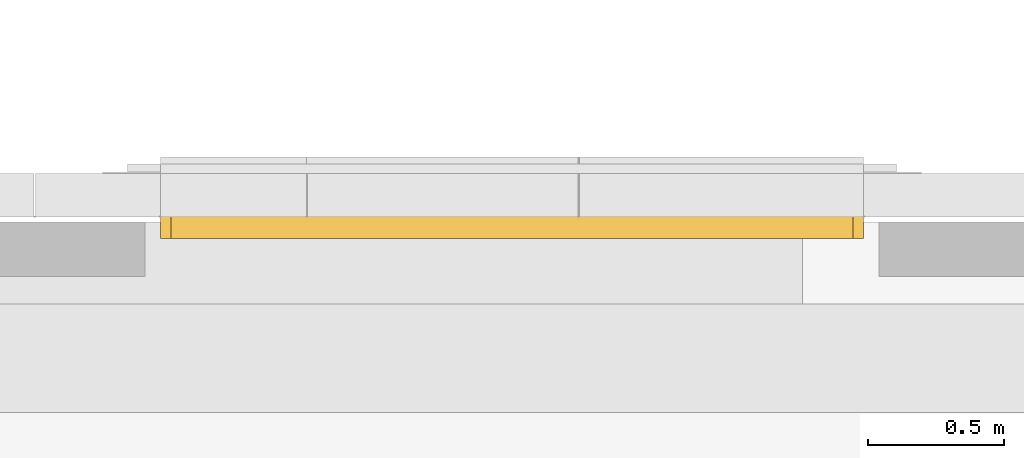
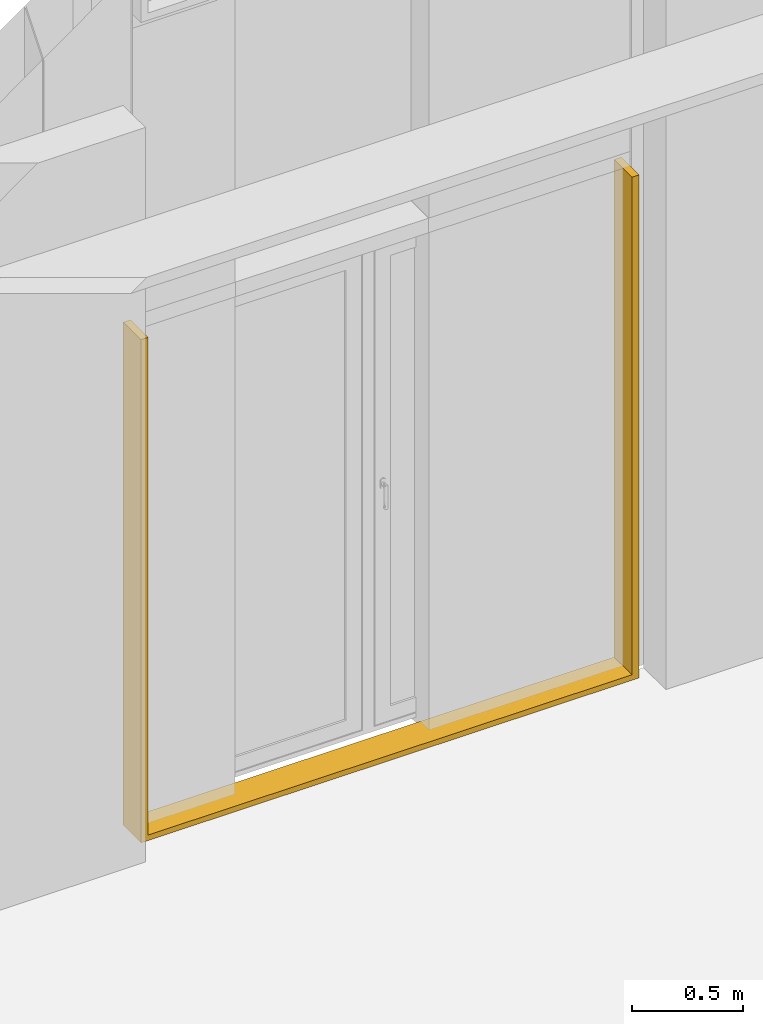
# One storey, part 236 of 302: 1 curtain wall, 1 opening, 1 element without a shape of its own.
"""IFC2X3 building model written with IfcOpenShell, lengths in metres."""

from ifc_helpers import new_model, entity, si_unit, converted_unit, derived_unit, direction, frame, frame_2d, origin, place, context, subcontext, project, spatial, rectangle, extrude, faceted_brep, material, layer, layer_set, layer_usage, type_object, element, aggregate, save


model = new_model("IFC2X3")

# Units and contexts
model_context = context("Model", 3, precision=1e-05, world=origin(), true_north=direction((6.12303176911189e-17, 1.0)))
body_context = subcontext(model_context, "Body", "Model", "MODEL_VIEW")
ifc_project = project(units=[si_unit("LENGTHUNIT", "METRE"), si_unit("AREAUNIT", "SQUARE_METRE"), si_unit("VOLUMEUNIT", "CUBIC_METRE"), converted_unit("PLANEANGLEUNIT", "DEGREE", entity("IfcRatioMeasure", 0.0174532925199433), si_unit("PLANEANGLEUNIT", "RADIAN"), dimensions=[0, 0, 0, 0, 0, 0, 0]), si_unit("MASSUNIT", "GRAM", prefix="KILO"), derived_unit("MASSDENSITYUNIT", [(si_unit("MASSUNIT", "GRAM", prefix="KILO"), 1), (si_unit("LENGTHUNIT", "METRE"), -3)]), derived_unit("MOMENTOFINERTIAUNIT", [(si_unit("LENGTHUNIT", "METRE"), 4)]), si_unit("TIMEUNIT", "SECOND"), si_unit("FREQUENCYUNIT", "HERTZ"), si_unit("THERMODYNAMICTEMPERATUREUNIT", "DEGREE_CELSIUS"), derived_unit("THERMALTRANSMITTANCEUNIT", [(si_unit("MASSUNIT", "GRAM", prefix="KILO"), 1), (si_unit("THERMODYNAMICTEMPERATUREUNIT", "KELVIN"), -1), (si_unit("TIMEUNIT", "SECOND"), -3)]), derived_unit("VOLUMETRICFLOWRATEUNIT", [(si_unit("LENGTHUNIT", "METRE"), 3), (si_unit("TIMEUNIT", "SECOND"), -1)]), si_unit("ELECTRICCURRENTUNIT", "AMPERE"), si_unit("ELECTRICVOLTAGEUNIT", "VOLT"), si_unit("POWERUNIT", "WATT"), si_unit("FORCEUNIT", "NEWTON", prefix="KILO"), si_unit("ILLUMINANCEUNIT", "LUX"), si_unit("LUMINOUSFLUXUNIT", "LUMEN"), si_unit("LUMINOUSINTENSITYUNIT", "CANDELA"), derived_unit("USERDEFINED", [(si_unit("MASSUNIT", "GRAM", prefix="KILO"), -1), (si_unit("LENGTHUNIT", "METRE"), -2), (si_unit("TIMEUNIT", "SECOND"), 3), (si_unit("LUMINOUSFLUXUNIT", "LUMEN"), 1)]), derived_unit("LINEARVELOCITYUNIT", [(si_unit("LENGTHUNIT", "METRE"), 1), (si_unit("TIMEUNIT", "SECOND"), -1)]), si_unit("PRESSUREUNIT", "PASCAL"), derived_unit("USERDEFINED", [(si_unit("LENGTHUNIT", "METRE"), -2), (si_unit("MASSUNIT", "GRAM", prefix="KILO"), 1), (si_unit("TIMEUNIT", "SECOND"), -2)]), derived_unit("LINEARFORCEUNIT", [(si_unit("MASSUNIT", "GRAM", prefix="KILO"), 1), (si_unit("LENGTHUNIT", "METRE"), 1), (si_unit("TIMEUNIT", "SECOND"), -2), (si_unit("LENGTHUNIT", "METRE"), -1)]), derived_unit("PLANARFORCEUNIT", [(si_unit("MASSUNIT", "GRAM", prefix="KILO"), 1), (si_unit("LENGTHUNIT", "METRE"), 1), (si_unit("TIMEUNIT", "SECOND"), -2), (si_unit("LENGTHUNIT", "METRE"), -2)])], contexts=[model_context])

# Site, building, storey
site_placement = place(None, origin())
site = spatial("IfcSite", under=ifc_project, at=site_placement, Name="Default", CompositionType="ELEMENT")
building_placement = place(site_placement, origin())
building = spatial("IfcBuilding", under=site, at=building_placement, CompositionType="ELEMENT")
storey_placement = place(building_placement, frame((0.0, 0.0, -1.3)))
storey = spatial("IfcBuildingStorey", under=building, at=storey_placement, Name="00_EG", CompositionType="ELEMENT", Elevation=-1.3)

# Curtain walls, opening
curtain_wall_type_1 = type_object("IfcCurtainWallType", Name="Fassade:Curtain Wall 1", PredefinedType="NOTDEFINED")
curtain_wall_1_placement = place(storey_placement, frame((0.0, 0.0, 1.3)))
curtain_wall_1 = element("IfcCurtainWall", 1, at=curtain_wall_1_placement, inside=storey, type_object=curtain_wall_type_1, Name="Fassade:Curtain Wall 1", ObjectType="Fassade:Curtain Wall 1")
ifc_material_1 = material(Name="Prepainted_Steel-ArcelorMittal_Construction_HAIRULTRA-35-CORAL-4309-[RAL_3000]")
ifc_layer_1 = layer(ifc_material_1, 0.015)
ifc_material_2 = material(Name="ArcelorMittal-MineralWool")
ifc_layer_2 = layer(ifc_material_2, 0.13)
ifc_material_3 = material(Name="Prepainted_Steel-ArcelorMittal_Construction_INTÉRIEUR-12-WHITE-912")
ifc_layer_3 = layer(ifc_material_3, 0.015)
ifc_layer_set = layer_set([ifc_layer_1, ifc_layer_2, ifc_layer_3], Name="Fassade:Sandwichpaneele 16cm")
ifc_layer_usage = layer_usage(ifc_layer_set, "AXIS2", "POSITIVE", -0.08)
curtain_wall_type_2 = type_object("IfcCurtainWallType", Name="Basiswand:Sandwichpaneele d = 16cm aussen", PredefinedType="NOTDEFINED", material=ifc_layer_set)
curtain_wall_2_placement = place(storey_placement, frame((-210.562611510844, 45.578088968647, 1.27), z_axis=(0.0, 0.0, 1.0), x_axis=(-1.0, 0.0, 0.0)))
curtain_wall_2 = element("IfcCurtainWall", 2, at=curtain_wall_2_placement, type_object=curtain_wall_type_2, material=ifc_layer_usage, Name="Basiswand:Sandwichpaneele d = 16cm aussen", ObjectType="Basiswand:Sandwichpaneele d = 16cm aussen", context=body_context, shape_type="SweptSolid", body=[
    extrude(rectangle(XDim=2.58500000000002, YDim=0.159999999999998, at=frame_2d((1.29250000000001, 0.0), x_axis=(-1.0, 0.0))), origin(), (0.0, 0.0, 1.0), 2.75999999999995),
])
opening_placement = place(curtain_wall_2_placement, frame((2.54750000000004, 0.0799999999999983, 0.0199999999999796), z_axis=(0.0, 0.0, 1.0), x_axis=(-1.0, 0.0, 0.0)))
element("IfcOpeningElement", 3, at=opening_placement, cuts=curtain_wall_2, Name="Basiswand:Sandwichpaneele d = 16cm aussen", ObjectType="Opening", context=body_context, shape_type="Brep", body=[
    faceted_brep([(2.51000000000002, 0.0, 2.74000000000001), (2.51000000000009, 0.320000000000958, 2.74000000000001), (0.0, 0.320000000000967, 2.74000000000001), (0.0, 0.0, 2.74000000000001), (0.0, 0.267099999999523, 0.010000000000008), (2.51000000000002, 0.267100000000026, 0.010000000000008), (2.51000000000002, 0.0, 0.010000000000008), (0.0, 0.0, 0.010000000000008), (0.0, 0.320000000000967, 0.0), (2.51000000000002, 0.320000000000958, 0.0)], [[[0, 1, 2, 3]], [[4, 5, 6, 7]], [[2, 8, 4, 7, 3]], [[3, 7, 6, 0]], [[0, 6, 5, 9, 1]], [[1, 9, 8, 2]], [[9, 5, 4, 8]]]),
])
aggregate(curtain_wall_1, [curtain_wall_2])

save(model, "model.ifc")
